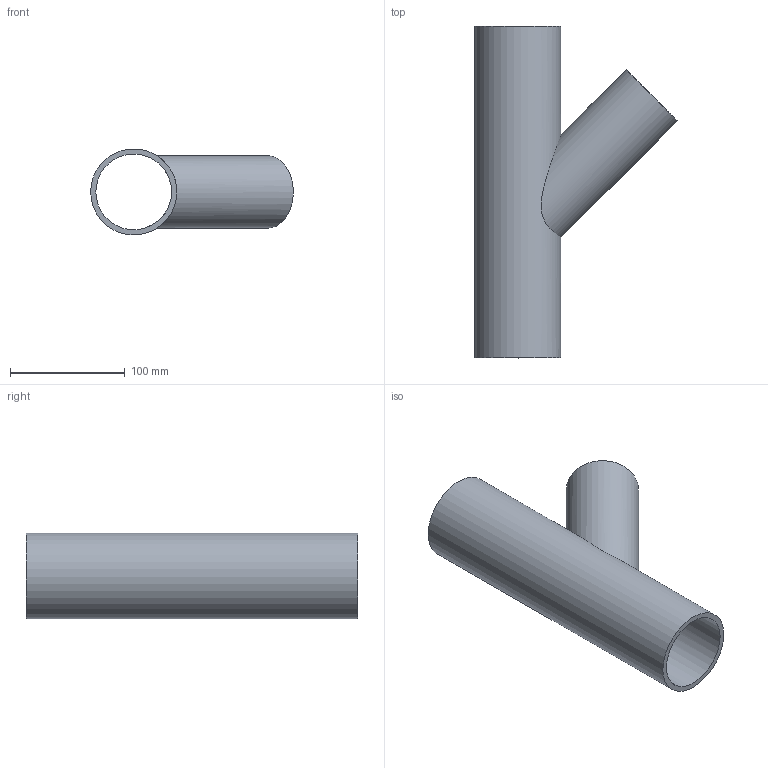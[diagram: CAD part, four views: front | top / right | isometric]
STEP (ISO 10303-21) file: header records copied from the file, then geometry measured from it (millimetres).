
FILE_DESCRIPTION(('Beschreibung'),'1');
FILE_NAME('V:/Ziel/25.25.01.063_SDR_17_PE100_075_063_075.STP', '2014-09-15T06:22:32',('Author'), ('Organization'), 'KCM Version 1.1.794.0', 'Kubotek KeyCreator', 'Authorization');
FILE_SCHEMA(('CONFIG_CONTROL_DESIGN'));
Length unit declared in the file: millimetre
Bounding box: 176.44 x 289 x 74.87 mm (x, y, z)
Volume: 357116 mm3; surface area: 168596.5 mm2
Topology: 1 solids, 1 shells, 7 faces, 21 edges, 17 vertices
Faces by surface type: cylinder 4, plane 3
Full cylindrical faces by diameter (mm): 55.4 x1, 63 x1, 66 x1, 75 x1
Entity records: 581 total; most frequent: CARTESIAN_POINT 310, DIRECTION 40, ORIENTED_EDGE 34, AXIS2_PLACEMENT_3D 18, EDGE_CURVE 17, VERTEX_POINT 13, EDGE_LOOP 12, CIRCLE 10
